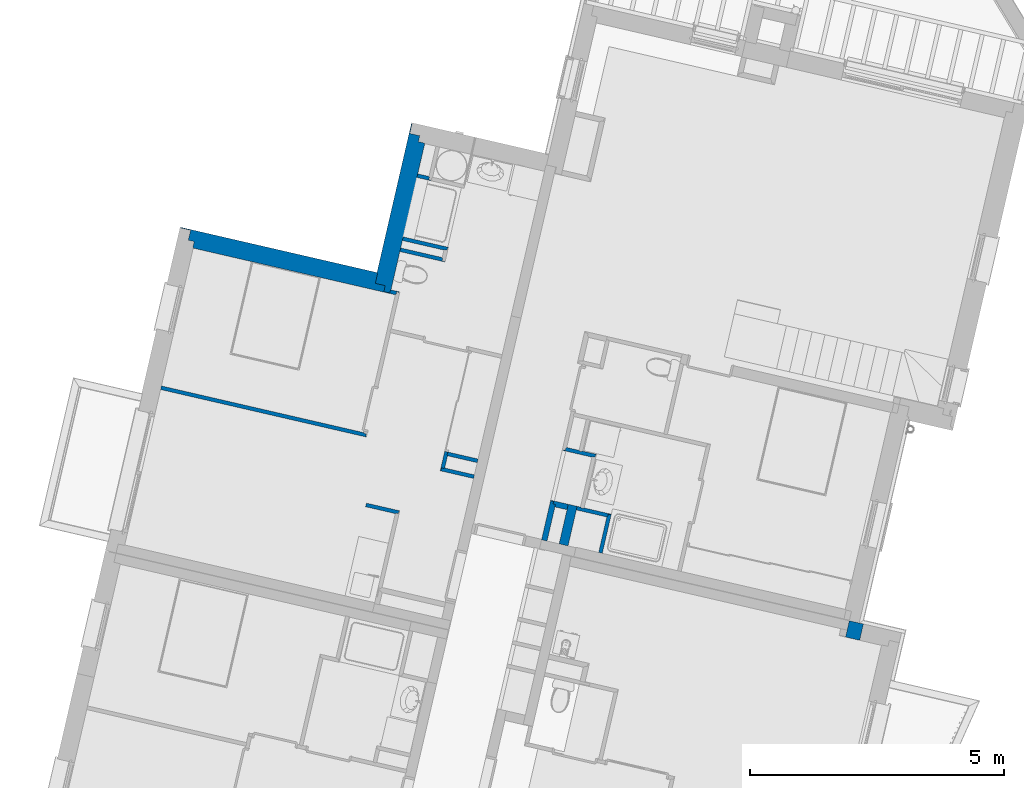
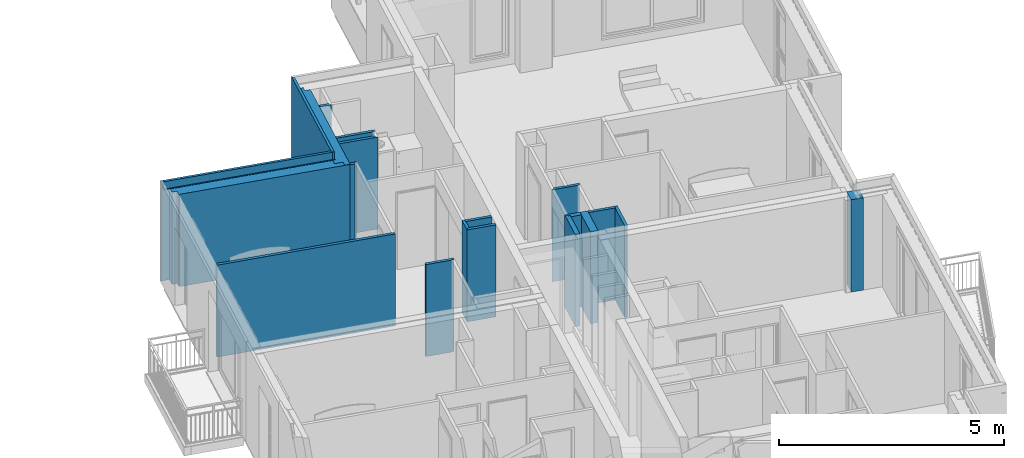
# One storey, part 30 of 62: 18 walls.
"""IFC2X3 building model written with IfcOpenShell, lengths in metres."""

from ifc_helpers import new_model, entity, si_unit, converted_unit, derived_unit, money_unit, direction, frame, origin_with_axes, place, context, subcontext, project, spatial, faceted_brep, material, material_list, type_object, element, save


model = new_model("IFC2X3")

# Units and contexts
model_context = context("Model", 3, precision=1e-05, world=origin_with_axes(), true_north=direction((0.0, 1.0)))
body_context = subcontext(model_context, "Body", "Model", "MODEL_VIEW")
ifc_project = project(units=[si_unit("LENGTHUNIT", "METRE"), si_unit("AREAUNIT", "SQUARE_METRE"), si_unit("VOLUMEUNIT", "CUBIC_METRE"), converted_unit("PLANEANGLEUNIT", "DEGREE", entity("IfcPlaneAngleMeasure", 0.0174532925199), si_unit("PLANEANGLEUNIT", "RADIAN"), dimensions=[0, 0, 0, 0, 0, 0, 0]), si_unit("SOLIDANGLEUNIT", "STERADIAN"), money_unit("EUR"), converted_unit("TIMEUNIT", "Year", entity("IfcTimeMeasure", 31556926.0), si_unit("TIMEUNIT", "SECOND"), dimensions=[0, 0, 1, 0, 0, 0, 0]), si_unit("MASSUNIT", "GRAM", prefix="KILO"), si_unit("THERMODYNAMICTEMPERATUREUNIT", "DEGREE_CELSIUS"), si_unit("LUMINOUSINTENSITYUNIT", "LUMEN"), si_unit("ENERGYUNIT", "JOULE", prefix="MEGA"), derived_unit("THERMALCONDUCTANCEUNIT", [(si_unit("POWERUNIT", "WATT"), 1), (si_unit("LENGTHUNIT", "METRE"), -1), (si_unit("THERMODYNAMICTEMPERATUREUNIT", "KELVIN"), -1)]), derived_unit("SPECIFICHEATCAPACITYUNIT", [(si_unit("ENERGYUNIT", "JOULE"), 1), (si_unit("MASSUNIT", "GRAM", prefix="KILO"), -1), (si_unit("THERMODYNAMICTEMPERATUREUNIT", "KELVIN"), -1)]), derived_unit("MASSDENSITYUNIT", [(si_unit("MASSUNIT", "GRAM", prefix="KILO"), 1), (si_unit("VOLUMEUNIT", "CUBIC_METRE"), -1)])], contexts=[model_context])

# Site, building, storey
site_placement = place(None, origin_with_axes())
site = spatial("IfcSite", under=ifc_project, at=site_placement, Name="Site", CompositionType="ELEMENT")
building_placement = place(site_placement, origin_with_axes())
building = spatial("IfcBuilding", under=site, at=building_placement, Name="Bâtiment", CompositionType="ELEMENT")
storey_placement = place(building_placement, frame((0.0, 0.0, 8.16), z_axis=(0.0, 0.0, 1.0), x_axis=(1.0, 0.0, 0.0)))
storey = spatial("IfcBuildingStorey", under=building, at=storey_placement, Name="R+3", CompositionType="ELEMENT", Elevation=8.16)

# Walls
ifc_material_1 = material(Name="Finition int - Plaque de plâtre")
ifc_material_2 = material(Name="Isolation - Polystyrène extrudé")
ifc_material_3 = material(Name="Bloc ELITHERM")
ifc_material_4 = material(Name="Mortier")
ifc_material_5 = material(Name="Béton cellulaire")
ifc_material_6 = material(Name="Finition ext - Crépis")
ifc_material_list_1 = material_list([ifc_material_1, ifc_material_2, ifc_material_3, ifc_material_4, ifc_material_5, ifc_material_6])
wall_type_1 = type_object("IfcWallType", Name="Mur ALKERN + planelle 21 345 x 2720", PredefinedType="USERDEFINED")
wall_1_placement = place(storey_placement, frame((-10.8873022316, 12.4248199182, 0.0), z_axis=(0.0, 0.0, 1.0), x_axis=(-0.22487619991, -0.974387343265, 0.0)))
element("IfcWall", 1, at=wall_1_placement, inside=storey, type_object=wall_type_1, material=ifc_material_list_1, Name="Mue bloc ALKERN isolé", ObjectType="SOLIDWALL", context=body_context, shape_type="Brep", body=[
    faceted_brep([(3.3749999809, 0.335000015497, 2.51000000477), (0.34499998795, 0.335000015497, 2.51), (0.34499998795, 0.335000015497, 0.0), (3.3749999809, 0.335000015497, 0.0), (2.23900000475, 0.335, 2.2), (1.02900000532, 0.335, 2.2), (1.02900000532, 0.335, 2.5), (2.23900000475, 0.335, 2.5), (3.3749999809, 0.34499998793, 2.51000000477), (0.344999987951, 0.34499998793, 2.51), (0.344999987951, 0.34499998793, 0.0), (3.3749999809, 0.34499998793, 0.0), (2.23900000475, 0.34499998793, 2.2), (1.02900000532, 0.34499998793, 2.2), (1.02900000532, 0.34499998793, 2.5), (2.23900000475, 0.34499998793, 2.5)], [[[0, 1, 2, 3], [4, 5, 6, 7]], [[8, 9, 1, 0]], [[2, 1, 9, 10]], [[3, 2, 10, 11]], [[0, 3, 11, 8]], [[12, 13, 5, 4]], [[13, 14, 6, 5]], [[14, 15, 7, 6]], [[15, 12, 4, 7]], [[11, 10, 9, 8], [12, 15, 14, 13]]]),
    faceted_brep([(0.33500001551, 0.215000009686, 2.51), (3.36500001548, 0.215000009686, 2.51), (3.36500001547, 0.335000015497, 2.51), (0.335000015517, 0.335000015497, 2.51), (0.33500001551, 0.215000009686, 0.0), (3.36500001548, 0.215000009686, 0.0), (3.36500001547, 0.335000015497, 0.0), (0.335000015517, 0.335000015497, 0.0)], [[[0, 1, 2, 3]], [[4, 5, 1, 0]], [[5, 6, 2, 1]], [[3, 2, 6, 7]], [[4, 0, 3, 7]], [[7, 6, 5, 4]]]),
    faceted_brep([(3.24500000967, 0.0829999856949, 2.51), (3.24500000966, 0.214999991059, 2.51), (0.214999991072, 0.214999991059, 2.50999999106), (0.214999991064, 0.0829999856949, 2.50999999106), (3.24500000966, 0.214999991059, 0.0), (3.24500000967, 0.015, 2.51), (3.24500000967, 0.015, 0.0), (0.214999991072, 0.214999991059, 0.0), (0.21499999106, 0.015, 0.0), (0.21499999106, 0.015, 2.50999999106)], [[[0, 1, 2, 3]], [[4, 1, 0, 5, 6]], [[1, 4, 7, 2]], [[3, 2, 7, 8, 9]], [[5, 0, 3, 9]], [[6, 5, 9, 8]], [[4, 6, 8, 7]]]),
    faceted_brep([(0.0830000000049, 0.083, 2.51), (0.0830000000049, 0.083, 2.52), (3.11299999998, 0.083, 2.51999998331), (3.11299999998, 0.083, 2.51000000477), (0.0830000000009, 0.015, 2.52), (0.0830000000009, 0.015, 2.51), (3.11299999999, 0.015, 2.51999998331), (3.11299999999, 0.015, 2.51000000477)], [[[0, 1, 2, 3]], [[4, 1, 0, 5]], [[1, 4, 6, 2]], [[7, 3, 2, 6]], [[5, 0, 3, 7]], [[4, 5, 7, 6]]]),
    faceted_brep([(3.09300000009, 0.015, 2.72), (3.09300000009, 0.0629999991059, 2.72), (0.0629999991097, 0.0629999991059, 2.72), (0.0629999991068, 0.015, 2.72), (3.09300000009, 0.0629999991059, 2.51999999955), (3.09300000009, 0.015, 2.51999999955), (0.0629999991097, 0.0629999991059, 2.51999999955), (0.0629999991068, 0.015, 2.51999999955)], [[[0, 1, 2, 3]], [[4, 1, 0, 5]], [[1, 4, 6, 2]], [[3, 2, 6, 7]], [[5, 0, 3, 7]], [[4, 5, 7, 6]]]),
    faceted_brep([(0.0149999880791, 0.0, 2.72), (3.04499999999, 0.0, 2.72), (3.04499999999, 0.0149999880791, 2.72), (0.0149999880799, 0.0149999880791, 2.72), (3.04499999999, 0.0, 0.0), (0.0149999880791, 0.0, 0.0), (3.04499999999, 0.0149999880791, 0.0), (0.0149999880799, 0.0149999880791, 0.0)], [[[0, 1, 2, 3]], [[4, 1, 0, 5]], [[6, 2, 1, 4]], [[3, 2, 6, 7]], [[5, 0, 3, 7]], [[7, 6, 4, 5]]]),
])
wall_2_placement = place(storey_placement, frame((-11.5686771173, 9.47242626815, 0.0), z_axis=(0.0, 0.0, 1.0), x_axis=(-0.974387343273, 0.224876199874, 0.0)))
element("IfcWall", 2, at=wall_2_placement, inside=storey, type_object=wall_type_1, material=ifc_material_list_1, Name="Mue bloc ALKERN isolé", ObjectType="SOLIDWALL", context=body_context, shape_type="Brep", body=[
    faceted_brep([(3.63500001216, 0.34499998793, 2.51), (-0.335000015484, 0.34499998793, 2.51), (-0.335000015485, 0.335000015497, 2.51), (3.63500001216, 0.335000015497, 2.51), (3.63500001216, 0.34499998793, 0.0), (-0.335000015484, 0.34499998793, 0.0), (-0.335000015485, 0.335000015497, 0.0), (3.63500001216, 0.335000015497, 0.0)], [[[0, 1, 2, 3]], [[4, 5, 1, 0]], [[5, 6, 2, 1]], [[3, 2, 6, 7]], [[4, 0, 3, 7]], [[7, 6, 5, 4]]]),
    faceted_brep([(3.6449999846, 0.335000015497, 2.51), (-0.215000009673, 0.335000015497, 2.51), (-0.215000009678, 0.215000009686, 2.51), (3.64499998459, 0.215000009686, 2.51), (3.6449999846, 0.335000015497, 0.0), (-0.215000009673, 0.335000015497, 0.0), (-0.215000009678, 0.215000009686, 0.0), (3.64499998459, 0.215000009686, 0.0)], [[[0, 1, 2, 3]], [[4, 5, 1, 0]], [[5, 6, 2, 1]], [[3, 2, 6, 7]], [[4, 0, 3, 7]], [[7, 6, 5, 4]]]),
    faceted_brep([(-0.0149999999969, 0.0829999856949, 2.50999999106), (-0.0149999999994, 0.015, 2.50999999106), (3.76500000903, 0.015, 2.50999999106), (3.76500000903, 0.0829999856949, 2.50999999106), (-0.0149999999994, 0.015, 0.0), (-0.014999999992, 0.214999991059, 2.50999999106), (-0.014999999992, 0.214999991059, 0.0), (3.76500000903, 0.015, 0.0), (3.76500000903, 0.214999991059, 0.0), (3.76500000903, 0.214999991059, 2.50999999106)], [[[0, 1, 2, 3]], [[4, 1, 0, 5, 6]], [[1, 4, 7, 2]], [[3, 2, 7, 8, 9]], [[5, 0, 3, 9]], [[6, 5, 9, 8]], [[4, 6, 8, 7]]]),
    faceted_brep([(-0.0149999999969, 0.083, 2.52), (-0.0149999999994, 0.015, 2.52), (3.89700000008, 0.015, 2.52), (3.89700000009, 0.083, 2.52), (-0.0149999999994, 0.015, 2.51), (-0.0149999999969, 0.083, 2.51), (3.89700000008, 0.015, 2.51), (3.89700000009, 0.083, 2.51)], [[[0, 1, 2, 3]], [[4, 1, 0, 5]], [[1, 4, 6, 2]], [[3, 2, 6, 7]], [[5, 0, 3, 7]], [[4, 5, 7, 6]]]),
    faceted_brep([(-0.0149999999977, 0.0629999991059, 2.72), (-0.0149999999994, 0.015, 2.72), (3.91700000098, 0.015, 2.72), (3.91700000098, 0.0629999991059, 2.72), (-0.0149999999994, 0.015, 2.51999999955), (-0.0149999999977, 0.0629999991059, 2.51999999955), (3.91700000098, 0.015, 2.51999999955), (3.91700000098, 0.0629999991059, 2.51999999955)], [[[0, 1, 2, 3]], [[4, 1, 0, 5]], [[1, 4, 6, 2]], [[3, 2, 6, 7]], [[5, 0, 3, 7]], [[4, 5, 7, 6]]]),
    faceted_brep([(3.96500001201, 0.0149999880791, 2.72), (0.0, 0.0149999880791, 2.72), (0.0, 0.0, 2.72), (3.96500001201, 0.0, 2.72), (0.0, 0.0149999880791, 0.0), (3.96500001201, 0.0149999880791, 0.0), (0.0, 0.0, 0.0), (3.96500001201, 0.0, 0.0)], [[[0, 1, 2, 3]], [[4, 1, 0, 5]], [[6, 2, 1, 4]], [[3, 2, 6, 7]], [[5, 0, 3, 7]], [[7, 6, 4, 5]]]),
])
ifc_material_7 = material(Name="Isolation - Laine de roche")
ifc_material_list_2 = material_list([ifc_material_1, ifc_material_7, ifc_material_1])
wall_type_2 = type_object("IfcWallType", Name="3 - Cloison 72mm Placostil 74", PredefinedType="USERDEFINED")
wall_3_placement = place(storey_placement, frame((-7.83288505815, 6.02789818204, 0.0), z_axis=(0.0, 0.0, 1.0), x_axis=(0.97438734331, -0.224876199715, 0.0)))
element("IfcWall", 3, at=wall_3_placement, inside=storey, type_object=wall_type_2, material=ifc_material_list_2, Name="Cloison Placostil 72/48", ObjectType="PARTITIONING", context=body_context, shape_type="Brep", body=[
    faceted_brep([(0.601263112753, -0.013, 2.5), (0.601263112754, 0.0, 2.5), (0.310999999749, 0.0, 2.5), (0.310999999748, -0.013, 2.5), (0.601263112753, -0.013, 0.0), (0.601263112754, 0.0, 0.0), (0.310999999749, 0.0, 0.0), (0.310999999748, -0.013, 0.0)], [[[0, 1, 2, 3]], [[1, 0, 4, 5]], [[1, 5, 6, 2]], [[7, 3, 2, 6]], [[4, 0, 3, 7]], [[5, 4, 7, 6]]]),
    faceted_brep([(0.262999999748, -0.013, 2.5), (0.262999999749, 0.0, 2.5), (0.0, 0.0, 2.5), (0.0, -0.013, 2.5), (0.262999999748, -0.013, 0.0), (0.262999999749, 0.0, 0.0), (0.0, 0.0, 0.0), (0.0, -0.013, 0.0)], [[[0, 1, 2, 3]], [[1, 0, 4, 5]], [[1, 5, 6, 2]], [[7, 3, 2, 6]], [[4, 0, 3, 7]], [[5, 4, 7, 6]]]),
    faceted_brep([(0.588263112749, -0.061, 2.5), (0.588263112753, -0.013, 2.5), (-0.013, -0.013, 2.5), (-0.013, -0.061, 2.5), (0.588263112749, -0.061, 0.0), (0.588263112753, -0.013, 0.0), (-0.013, -0.013, 0.0), (-0.013, -0.061, 0.0)], [[[0, 1, 2, 3]], [[1, 0, 4, 5]], [[1, 5, 6, 2]], [[7, 3, 2, 6]], [[4, 0, 3, 7]], [[5, 4, 7, 6]]]),
    faceted_brep([(0.540263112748, -0.074, 2.5), (0.540263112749, -0.061, 2.5), (-0.061, -0.061, 2.5), (-0.061, -0.074, 2.5), (0.540263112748, -0.074, 0.0), (0.540263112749, -0.061, 0.0), (-0.061, -0.061, 0.0), (-0.061, -0.074, 0.0)], [[[0, 1, 2, 3]], [[1, 0, 4, 5]], [[1, 5, 6, 2]], [[7, 3, 2, 6]], [[4, 0, 3, 7]], [[5, 4, 7, 6]]]),
])
wall_4_placement = place(storey_placement, frame((-10.2357676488, 5.95253282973, 0.0), z_axis=(0.0, 0.0, 1.0), x_axis=(-0.224876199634, -0.974387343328, 0.0)))
element("IfcWall", 4, at=wall_4_placement, inside=storey, type_object=wall_type_2, material=ifc_material_list_2, Name="Cloison Placostil 72/48", ObjectType="PARTITIONING", context=body_context, shape_type="Brep", body=[
    faceted_brep([(0.0130000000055, 0.074, 0.0), (0.0130000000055, 0.061, 0.0), (0.0, 0.061, 0.0), (0.0, 0.074, 0.0), (0.0130000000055, 0.074, 2.5), (0.0130000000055, 0.061, 2.5), (0.0, 0.061, 2.5), (0.0, 0.074, 2.5)], [[[0, 1, 2, 3]], [[1, 0, 4, 5]], [[1, 5, 6, 2]], [[7, 3, 2, 6]], [[4, 0, 3, 7]], [[5, 4, 7, 6]]]),
    faceted_brep([(0.320000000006, 0.074, 0.0), (0.320000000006, 0.061, 0.0), (0.0610000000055, 0.061, 0.0), (0.0610000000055, 0.074, 0.0), (0.320000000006, 0.074, 2.5), (0.320000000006, 0.061, 2.5), (0.0610000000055, 0.061, 2.5), (0.0610000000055, 0.074, 2.5)], [[[0, 1, 2, 3]], [[1, 0, 4, 5]], [[1, 5, 6, 2]], [[7, 3, 2, 6]], [[4, 0, 3, 7]], [[5, 4, 7, 6]]]),
    faceted_brep([(0.333000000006, 0.061, 0.0), (0.333000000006, 0.013, 0.0), (0.0, 0.013, 0.0), (0.0, 0.061, 0.0), (0.333000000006, 0.061, 2.5), (0.333000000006, 0.013, 2.5), (0.0, 0.013, 2.5), (0.0, 0.061, 2.5)], [[[0, 1, 2, 3]], [[1, 0, 4, 5]], [[1, 5, 6, 2]], [[7, 3, 2, 6]], [[4, 0, 3, 7]], [[5, 4, 7, 6]]]),
    faceted_brep([(0.381000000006, 0.013, 0.0), (0.381000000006, 0.0, 0.0), (0.0, 0.0, 0.0), (0.0, 0.013, 0.0), (0.381000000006, 0.013, 2.5), (0.381000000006, 0.0, 2.5), (0.0, 0.0, 2.5), (0.0, 0.013, 2.5)], [[[0, 1, 2, 3]], [[1, 0, 4, 5]], [[1, 5, 6, 2]], [[7, 3, 2, 6]], [[4, 0, 3, 7]], [[5, 4, 7, 6]]]),
])
wall_5_placement = place(storey_placement, frame((-10.3243688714, 5.56862421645, 0.0), z_axis=(0.0, 0.0, 1.0), x_axis=(0.974387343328, -0.224876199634, 0.0)))
element("IfcWall", 5, at=wall_5_placement, inside=storey, type_object=wall_type_2, material=ifc_material_list_2, Name="Cloison Placostil 72/48", ObjectType="PARTITIONING", context=body_context, shape_type="Brep", body=[
    faceted_brep([(0.061, 0.074, 0.0), (0.674999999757, 0.074, 0.0), (0.674999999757, 0.061, 0.0), (0.061, 0.061, 0.0), (0.061, 0.074, 2.5), (0.674999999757, 0.074, 2.5), (0.674999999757, 0.061, 2.5), (0.061, 0.061, 2.5)], [[[0, 1, 2, 3]], [[4, 5, 1, 0]], [[2, 1, 5, 6]], [[3, 2, 6, 7]], [[4, 0, 3, 7]], [[7, 6, 5, 4]]]),
    faceted_brep([(0.013, 0.061, 0.0), (0.674999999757, 0.061, 0.0), (0.674999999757, 0.013, 0.0), (0.013, 0.013, 0.0), (0.013, 0.061, 2.5), (0.674999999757, 0.061, 2.5), (0.674999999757, 0.013, 2.5), (0.013, 0.013, 2.5)], [[[0, 1, 2, 3]], [[4, 5, 1, 0]], [[2, 1, 5, 6]], [[3, 2, 6, 7]], [[4, 0, 3, 7]], [[7, 6, 5, 4]]]),
    faceted_brep([(0.0, 0.013, 0.0), (0.674999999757, 0.013, 0.0), (0.674999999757, 0.0, 0.0), (0.0, 0.0, 0.0), (0.0, 0.013, 2.5), (0.674999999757, 0.013, 2.5), (0.674999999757, 0.0, 2.5), (0.0, 0.0, 2.5)], [[[0, 1, 2, 3]], [[4, 5, 1, 0]], [[2, 1, 5, 6]], [[3, 2, 6, 7]], [[4, 0, 3, 7]], [[7, 6, 5, 4]]]),
])
wall_6_placement = place(storey_placement, frame((-11.778601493, 6.23265409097, 0.0), z_axis=(0.0, 0.0, 1.0), x_axis=(-0.974387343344, 0.224876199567, 0.0)))
element("IfcWall", 6, at=wall_6_placement, inside=storey, type_object=wall_type_2, material=ifc_material_list_2, Name="Cloison Placostil 72/48", ObjectType="PARTITIONING", context=body_context, shape_type="Brep", body=[
    faceted_brep([(0.0, -0.013, 2.5), (4.15900001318, -0.013, 2.5), (4.15900001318, 0.0, 2.5), (0.0, 0.0, 2.5), (0.0, -0.013, 0.0), (4.15900001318, -0.013, 0.0), (4.15900001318, 0.0, 0.0), (0.0, 0.0, 0.0)], [[[0, 1, 2, 3]], [[4, 5, 1, 0]], [[2, 1, 5, 6]], [[3, 2, 6, 7]], [[4, 0, 3, 7]], [[7, 6, 5, 4]]]),
    faceted_brep([(0.0129999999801, -0.061, 2.5), (4.15900001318, -0.061, 2.5), (4.15900001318, -0.013, 2.5), (0.0129999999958, -0.013, 2.5), (0.0129999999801, -0.061, 0.0), (4.15900001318, -0.061, 0.0), (4.15900001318, -0.013, 0.0), (0.0129999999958, -0.013, 0.0)], [[[0, 1, 2, 3]], [[4, 5, 1, 0]], [[2, 1, 5, 6]], [[3, 2, 6, 7]], [[4, 0, 3, 7]], [[7, 6, 5, 4]]]),
    faceted_brep([(0.0609999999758, -0.074, 2.5), (4.15900001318, -0.074, 2.5), (4.15900001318, -0.061, 2.5), (0.0609999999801, -0.061, 2.5), (0.0609999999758, -0.074, 0.0), (4.15900001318, -0.074, 0.0), (4.15900001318, -0.061, 0.0), (0.0609999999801, -0.061, 0.0)], [[[0, 1, 2, 3]], [[4, 5, 1, 0]], [[2, 1, 5, 6]], [[3, 2, 6, 7]], [[4, 0, 3, 7]], [[7, 6, 5, 4]]]),
])
wall_7_placement = place(storey_placement, frame((-11.3198396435, 9.06092911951, 0.0), z_axis=(0.0, 0.0, 1.0), x_axis=(0.974387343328, -0.224876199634, 0.0)))
element("IfcWall", 7, at=wall_7_placement, inside=storey, type_object=wall_type_2, material=ifc_material_list_2, Name="Cloison Placostil 72/48", ObjectType="PARTITIONING", context=body_context, shape_type="Brep", body=[
    faceted_brep([(0.176000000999, 0.074, 0.0), (0.176000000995, 0.061, 0.0), (0.0, 0.061, 0.0), (0.0, 0.074, 0.0), (0.176000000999, 0.074, 2.5), (0.176000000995, 0.061, 2.5), (0.0, 0.061, 2.5), (0.0, 0.074, 2.5)], [[[0, 1, 2, 3]], [[1, 0, 4, 5]], [[1, 5, 6, 2]], [[7, 3, 2, 6]], [[4, 0, 3, 7]], [[5, 4, 7, 6]]]),
    faceted_brep([(0.128000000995, 0.061, 0.0), (0.128000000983, 0.013, 0.0), (0.0, 0.013, 0.0), (0.0, 0.061, 0.0), (0.128000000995, 0.061, 2.5), (0.128000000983, 0.013, 2.5), (0.0, 0.013, 2.5), (0.0, 0.061, 2.5)], [[[0, 1, 2, 3]], [[1, 0, 4, 5]], [[1, 5, 6, 2]], [[7, 3, 2, 6]], [[4, 0, 3, 7]], [[5, 4, 7, 6]]]),
    faceted_brep([(0.115000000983, 0.013, 0.0), (0.11500000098, 0.0, 0.0), (0.0, 0.0, 0.0), (0.0, 0.013, 0.0), (0.115000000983, 0.013, 2.5), (0.11500000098, 0.0, 2.5), (0.0, 0.0, 2.5), (0.0, 0.013, 2.5)], [[[0, 1, 2, 3]], [[1, 0, 4, 5]], [[1, 5, 6, 2]], [[7, 3, 2, 6]], [[4, 0, 3, 7]], [[5, 4, 7, 6]]]),
])
wall_8_placement = place(storey_placement, frame((-10.2524084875, 5.88042816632, 0.0), z_axis=(0.0, 0.0, 1.0), x_axis=(0.974387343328, -0.224876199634, 0.0)))
element("IfcWall", 8, at=wall_8_placement, inside=storey, type_object=wall_type_2, material=ifc_material_list_2, Name="Cloison Placostil 72/48", ObjectType="PARTITIONING", context=body_context, shape_type="Brep", body=[
    faceted_brep([(0.074, 0.074, 0.0), (0.674999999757, 0.074, 0.0), (0.674999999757, 0.061, 0.0), (0.074, 0.061, 0.0), (0.074, 0.074, 2.5), (0.674999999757, 0.074, 2.5), (0.674999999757, 0.061, 2.5), (0.074, 0.061, 2.5)], [[[0, 1, 2, 3]], [[4, 5, 1, 0]], [[2, 1, 5, 6]], [[3, 2, 6, 7]], [[4, 0, 3, 7]], [[7, 6, 5, 4]]]),
    faceted_brep([(0.061, 0.061, 0.0), (0.674999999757, 0.061, 0.0), (0.674999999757, 0.013, 0.0), (0.061, 0.013, 0.0), (0.061, 0.061, 2.5), (0.674999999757, 0.061, 2.5), (0.674999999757, 0.013, 2.5), (0.061, 0.013, 2.5)], [[[0, 1, 2, 3]], [[4, 5, 1, 0]], [[2, 1, 5, 6]], [[3, 2, 6, 7]], [[4, 0, 3, 7]], [[7, 6, 5, 4]]]),
    faceted_brep([(0.074, 0.013, 0.0), (0.674999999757, 0.013, 0.0), (0.674999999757, 0.0, 0.0), (0.074, 0.0, 0.0), (0.074, 0.013, 2.5), (0.674999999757, 0.013, 2.5), (0.674999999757, 0.0, 2.5), (0.074, 0.0, 2.5)], [[[0, 1, 2, 3]], [[4, 5, 1, 0]], [[2, 1, 5, 6]], [[3, 2, 6, 7]], [[4, 0, 3, 7]], [[7, 6, 5, 4]]]),
])
wall_9_placement = place(storey_placement, frame((-11.2096996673, 4.72524852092, 0.0), z_axis=(0.0, 0.0, 1.0), x_axis=(-0.974387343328, 0.224876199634, 0.0)))
element("IfcWall", 9, at=wall_9_placement, inside=storey, type_object=wall_type_2, material=ifc_material_list_2, Name="Cloison Placostil 72/48", ObjectType="PARTITIONING", context=body_context, shape_type="Brep", body=[
    faceted_brep([(-0.013, -0.013, 2.5), (0.600000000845, -0.013, 2.5), (0.600000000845, 0.0, 2.5), (-0.013, 0.0, 2.5), (-0.013, -0.013, 0.0), (0.600000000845, -0.013, 0.0), (0.600000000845, 0.0, 0.0), (-0.013, 0.0, 0.0)], [[[0, 1, 2, 3]], [[4, 5, 1, 0]], [[2, 1, 5, 6]], [[3, 2, 6, 7]], [[4, 0, 3, 7]], [[7, 6, 5, 4]]]),
    faceted_brep([(-0.061, -0.061, 2.5), (0.600000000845, -0.061, 2.5), (0.600000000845, -0.013, 2.5), (-0.061, -0.013, 2.5), (-0.061, -0.061, 0.0), (0.600000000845, -0.061, 0.0), (0.600000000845, -0.013, 0.0), (-0.061, -0.013, 0.0)], [[[0, 1, 2, 3]], [[4, 5, 1, 0]], [[2, 1, 5, 6]], [[3, 2, 6, 7]], [[4, 0, 3, 7]], [[7, 6, 5, 4]]]),
    faceted_brep([(-0.074, -0.074, 2.5), (0.600000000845, -0.074, 2.5), (0.600000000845, -0.061, 2.5), (-0.074, -0.061, 2.5), (-0.074, -0.074, 0.0), (0.600000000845, -0.074, 0.0), (0.600000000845, -0.061, 0.0), (-0.074, -0.061, 0.0)], [[[0, 1, 2, 3]], [[4, 5, 1, 0]], [[2, 1, 5, 6]], [[3, 2, 6, 7]], [[4, 0, 3, 7]], [[7, 6, 5, 4]]]),
])
wall_type_3 = type_object("IfcWallType", Name="3 - Cloison Gaine Technique 72mm 74", PredefinedType="USERDEFINED")
wall_10_placement = place(storey_placement, frame((-10.4911943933, 11.2773550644, 0.0), z_axis=(0.0, 0.0, 1.0), x_axis=(-0.974387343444, 0.224876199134, 0.0)))
element("IfcWall", 10, at=wall_10_placement, inside=storey, type_object=wall_type_3, material=ifc_material_list_2, Name="Cloison Placostil 72/48", ObjectType="PARTITIONING", context=body_context, shape_type="Brep", body=[
    faceted_brep([(0.013, 0.0, 2.5), (0.0129999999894, -0.013, 2.5), (0.299000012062, -0.013, 2.5), (0.299000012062, 0.0, 2.5), (0.013, 0.0, 0.0), (0.0129999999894, -0.013, 0.0), (0.299000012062, -0.013, 0.0), (0.299000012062, 0.0, 0.0)], [[[0, 1, 2, 3]], [[4, 5, 1, 0]], [[1, 5, 6, 2]], [[7, 3, 2, 6]], [[4, 0, 3, 7]], [[5, 4, 7, 6]]]),
    faceted_brep([(0.0609999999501, -0.061, 2.5), (0.299000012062, -0.061, 2.5), (0.299000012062, -0.013, 2.5), (0.0609999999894, -0.013, 2.5), (0.0609999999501, -0.061, 0.0), (0.299000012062, -0.061, 0.0), (0.299000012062, -0.013, 0.0), (0.0609999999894, -0.013, 0.0)], [[[0, 1, 2, 3]], [[4, 5, 1, 0]], [[2, 1, 5, 6]], [[3, 2, 6, 7]], [[4, 0, 3, 7]], [[7, 6, 5, 4]]]),
    faceted_brep([(0.0739999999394, -0.074, 2.5), (0.299000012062, -0.074, 2.5), (0.299000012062, -0.061, 2.5), (0.0739999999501, -0.061, 2.5), (0.0739999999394, -0.074, 0.0), (0.299000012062, -0.074, 0.0), (0.299000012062, -0.061, 0.0), (0.0739999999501, -0.061, 0.0)], [[[0, 1, 2, 3]], [[4, 5, 1, 0]], [[2, 1, 5, 6]], [[3, 2, 6, 7]], [[4, 0, 3, 7]], [[7, 6, 5, 4]]]),
])
wall_11_placement = place(storey_placement, frame((-7.62717439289, 4.86922451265, 0.0), z_axis=(0.0, 0.0, 1.0), x_axis=(0.97438734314, -0.224876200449, 0.0)))
element("IfcWall", 11, at=wall_11_placement, inside=storey, type_object=wall_type_3, material=ifc_material_list_2, Name="Cloison Placostil 72/48", ObjectType="PARTITIONING", context=body_context, shape_type="Brep", body=[
    faceted_brep([(0.677263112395, -0.013, 2.5), (0.677263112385, 0.0, 2.5), (0.127263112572, 0.0, 2.5), (0.127263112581, -0.013, 2.5), (0.677263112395, -0.013, 0.0), (0.677263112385, 0.0, 0.0), (0.127263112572, 0.0, 0.0), (0.127263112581, -0.013, 0.0)], [[[0, 1, 2, 3]], [[1, 0, 4, 5]], [[1, 5, 6, 2]], [[7, 3, 2, 6]], [[4, 0, 3, 7]], [[5, 4, 7, 6]]]),
    faceted_brep([(0.0792631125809, -0.013, 2.5), (0.0792631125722, 0.0, 2.5), (0.0, 0.0, 2.5), (0.0, -0.013, 2.5), (0.0792631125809, -0.013, 0.0), (0.0792631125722, 0.0, 0.0), (0.0, 0.0, 0.0), (0.0, -0.013, 0.0)], [[[0, 1, 2, 3]], [[1, 0, 4, 5]], [[1, 5, 6, 2]], [[7, 3, 2, 6]], [[4, 0, 3, 7]], [[5, 4, 7, 6]]]),
    faceted_brep([(0.629263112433, -0.061, 2.5), (0.629263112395, -0.013, 2.5), (0.0, -0.013, 2.5), (0.0, -0.061, 2.5), (0.629263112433, -0.061, 0.0), (0.629263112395, -0.013, 0.0), (0.0, -0.013, 0.0), (0.0, -0.061, 0.0)], [[[0, 1, 2, 3]], [[1, 0, 4, 5]], [[1, 5, 6, 2]], [[7, 3, 2, 6]], [[4, 0, 3, 7]], [[5, 4, 7, 6]]]),
    faceted_brep([(0.616263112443, -0.074, 2.5), (0.616263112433, -0.061, 2.5), (0.0, -0.061, 2.5), (0.0, -0.074, 2.5), (0.616263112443, -0.074, 0.0), (0.616263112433, -0.061, 0.0), (0.0, -0.061, 0.0), (0.0, -0.074, 0.0)], [[[0, 1, 2, 3]], [[1, 0, 4, 5]], [[1, 5, 6, 2]], [[7, 3, 2, 6]], [[4, 0, 3, 7]], [[5, 4, 7, 6]]]),
])
wall_12_placement = place(storey_placement, frame((-10.2296946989, 9.6800406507, 0.0), z_axis=(0.0, 0.0, 1.0), x_axis=(-0.974387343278, 0.224876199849, 0.0)))
element("IfcWall", 12, at=wall_12_placement, inside=storey, type_object=wall_type_3, material=ifc_material_list_2, Name="Cloison Placostil 72/48", ObjectType="PARTITIONING", context=body_context, shape_type="Brep", body=[
    faceted_brep([(0.0129999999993, -0.013, 2.5), (0.913000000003, -0.013, 2.5), (0.913000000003, 0.0, 2.5), (0.013, 0.0, 2.5), (0.0129999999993, -0.013, 0.0), (0.913000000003, -0.013, 0.0), (0.913000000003, 0.0, 0.0), (0.013, 0.0, 0.0)], [[[0, 1, 2, 3]], [[4, 5, 1, 0]], [[2, 1, 5, 6]], [[3, 2, 6, 7]], [[4, 0, 3, 7]], [[7, 6, 5, 4]]]),
    faceted_brep([(0.0609999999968, -0.061, 2.5), (0.913000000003, -0.061, 2.5), (0.913000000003, -0.013, 2.5), (0.0609999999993, -0.013, 2.5), (0.0609999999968, -0.061, 0.0), (0.913000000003, -0.061, 0.0), (0.913000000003, -0.013, 0.0), (0.0609999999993, -0.013, 0.0)], [[[0, 1, 2, 3]], [[4, 5, 1, 0]], [[2, 1, 5, 6]], [[3, 2, 6, 7]], [[4, 0, 3, 7]], [[7, 6, 5, 4]]]),
    faceted_brep([(0.0739999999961, -0.074, 2.5), (0.913000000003, -0.074, 2.5), (0.913000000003, -0.061, 2.5), (0.0739999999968, -0.061, 2.5), (0.0739999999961, -0.074, 0.0), (0.913000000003, -0.074, 0.0), (0.913000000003, -0.061, 0.0), (0.0739999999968, -0.061, 0.0)], [[[0, 1, 2, 3]], [[4, 5, 1, 0]], [[2, 1, 5, 6]], [[3, 2, 6, 7]], [[4, 0, 3, 7]], [[7, 6, 5, 4]]]),
])
wall_13_placement = place(storey_placement, frame((-6.95459075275, 4.71400076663, 0.0), z_axis=(0.0, 0.0, 1.0), x_axis=(-0.224876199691, -0.974387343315, 0.0)))
element("IfcWall", 13, at=wall_13_placement, inside=storey, type_object=wall_type_3, material=ifc_material_list_2, Name="Cloison Placostil 72/48", ObjectType="PARTITIONING", context=body_context, shape_type="Brep", body=[
    faceted_brep([(0.0, -0.013, 2.5), (0.790475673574, -0.013, 2.5), (0.790475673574, 0.0, 2.5), (0.0, 0.0, 2.5), (0.0, -0.013, 0.0), (0.790475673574, -0.013, 0.0), (0.790475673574, 0.0, 0.0), (0.0, 0.0, 0.0)], [[[0, 1, 2, 3]], [[4, 5, 1, 0]], [[2, 1, 5, 6]], [[3, 2, 6, 7]], [[4, 0, 3, 7]], [[7, 6, 5, 4]]]),
    faceted_brep([(0.0129999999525, -0.061, 2.5), (0.790475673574, -0.061, 2.5), (0.790475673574, -0.013, 2.5), (0.0129999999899, -0.013, 2.5), (0.0129999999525, -0.061, 0.0), (0.790475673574, -0.061, 0.0), (0.790475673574, -0.013, 0.0), (0.0129999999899, -0.013, 0.0)], [[[0, 1, 2, 3]], [[4, 5, 1, 0]], [[2, 1, 5, 6]], [[3, 2, 6, 7]], [[4, 0, 3, 7]], [[7, 6, 5, 4]]]),
    faceted_brep([(0.0609999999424, -0.074, 2.5), (0.790475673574, -0.074, 2.5), (0.790475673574, -0.061, 2.5), (0.0609999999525, -0.061, 2.5), (0.0609999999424, -0.074, 0.0), (0.790475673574, -0.074, 0.0), (0.790475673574, -0.061, 0.0), (0.0609999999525, -0.061, 0.0)], [[[0, 1, 2, 3]], [[4, 5, 1, 0]], [[2, 1, 5, 6]], [[3, 2, 6, 7]], [[4, 0, 3, 7]], [[7, 6, 5, 4]]]),
])
wall_14_placement = place(storey_placement, frame((-11.0523876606, 10.1753282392, 0.0), z_axis=(0.0, 0.0, 1.0), x_axis=(0.97438734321, -0.224876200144, 0.0)))
element("IfcWall", 14, at=wall_14_placement, inside=storey, type_object=wall_type_3, material=ifc_material_list_2, Name="Cloison Placostil 72/48", ObjectType="PARTITIONING", context=body_context, shape_type="Brep", body=[
    faceted_brep([(0.0, 0.0, 2.2), (0.225000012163, 0.0, 2.2), (0.225000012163, 0.0, 2.5), (0.913, 0.0, 2.5), (0.913, 0.0, 0.0), (0.0, 0.0, 0.0), (0.0, -0.00999999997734, 2.2), (0.225000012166, -0.00999999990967, 2.2), (0.225000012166, -0.00999999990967, 2.5), (0.0, -0.00999999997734, 2.5), (0.0, -0.013, 2.5), (0.913000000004, -0.013, 2.5), (0.913000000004, -0.013, 0.0), (0.0, -0.013, 0.0)], [[[0, 1, 2, 3, 4, 5]], [[1, 0, 6, 7]], [[8, 2, 1, 7]], [[8, 9, 10, 11, 3, 2]], [[3, 11, 12, 4]], [[4, 12, 13, 5]], [[6, 0, 5, 13, 10, 9]], [[9, 8, 7, 6]], [[12, 11, 10, 13]]]),
    faceted_brep([(0.900000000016, -0.061, 2.5), (0.900000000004, -0.013, 2.5), (0.0, -0.013, 2.5), (0.0, -0.061, 2.5), (0.900000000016, -0.061, 0.0), (0.900000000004, -0.013, 0.0), (0.0, -0.013, 0.0), (0.0, -0.061, 0.0)], [[[0, 1, 2, 3]], [[1, 0, 4, 5]], [[1, 5, 6, 2]], [[7, 3, 2, 6]], [[4, 0, 3, 7]], [[5, 4, 7, 6]]]),
    faceted_brep([(0.852000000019, -0.074, 2.5), (0.852000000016, -0.061, 2.5), (0.0, -0.061, 2.5), (0.0, -0.074, 2.5), (0.852000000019, -0.074, 0.0), (0.852000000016, -0.061, 0.0), (0.0, -0.061, 0.0), (0.0, -0.074, 0.0)], [[[0, 1, 2, 3]], [[1, 0, 4, 5]], [[1, 5, 6, 2]], [[7, 3, 2, 6]], [[4, 0, 3, 7]], [[5, 4, 7, 6]]]),
])
ifc_material_8 = material(Name="Béton")
wall_type_4 = type_object("IfcWallType", Name="Béton 180", PredefinedType="USERDEFINED")
wall_15_placement = place(storey_placement, frame((-7.65213565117, 4.76106751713, 0.0), z_axis=(0.0, 0.0, 1.0), x_axis=(-0.224876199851, -0.974387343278, 0.0)))
element("IfcWall", 15, at=wall_15_placement, inside=storey, type_object=wall_type_4, material=ifc_material_8, Name="M_Ext-009", ObjectType="SOLIDWALL", context=body_context, shape_type="Brep", body=[
    faceted_brep([(-0.111, -0.18, 2.5), (0.689475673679, -0.18, 2.5), (0.689475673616, 0.0, 2.5), (-0.111, 0.0, 2.5), (-0.111, -0.18, 0.0), (0.689475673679, -0.18, 0.0), (0.689475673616, 0.0, 0.0), (-0.111, 0.0, 0.0)], [[[0, 1, 2, 3]], [[4, 5, 1, 0]], [[6, 2, 1, 5]], [[3, 2, 6, 7]], [[7, 4, 0, 3]], [[7, 6, 5, 4]]]),
])
ifc_material_9 = material(Name="Finition int - Plaque type PROMAT 5cm")
ifc_material_list_3 = material_list([ifc_material_9, ifc_material_7, ifc_material_1])
wall_type_5 = type_object("IfcWallType", Name="3 - Cloison CF 2H PROMAT 111", PredefinedType="USERDEFINED")
wall_16_placement = place(storey_placement, frame((-8.06527588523, 4.85641502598, 0.0), z_axis=(0.0, 0.0, 1.0), x_axis=(-0.224876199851, -0.974387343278, 0.0)))
element("IfcWall", 16, at=wall_16_placement, inside=storey, type_object=wall_type_5, material=ifc_material_list_3, Name="Cloison CF Promat 5cm", ObjectType="PARTITIONING", context=body_context, shape_type="Brep", body=[
    faceted_brep([(0.689475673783, -0.05, 2.5), (0.689475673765, 0.0, 2.5), (-0.05, 0.0, 2.5), (-0.05, -0.05, 2.5), (0.689475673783, -0.05, 0.0), (0.689475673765, 0.0, 0.0), (-0.05, 0.0, 0.0), (-0.05, -0.05, 0.0)], [[[0, 1, 2, 3]], [[1, 0, 4, 5]], [[1, 5, 6, 2]], [[7, 3, 2, 6]], [[4, 0, 3, 7]], [[5, 4, 7, 6]]]),
    faceted_brep([(0.6894756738, -0.098, 2.5), (0.689475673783, -0.05, 2.5), (-0.098, -0.05, 2.5), (-0.098, -0.098, 2.5), (0.6894756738, -0.098, 0.0), (0.689475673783, -0.05, 0.0), (-0.098, -0.05, 0.0), (-0.098, -0.098, 0.0)], [[[0, 1, 2, 3]], [[1, 0, 4, 5]], [[1, 5, 6, 2]], [[7, 3, 2, 6]], [[4, 0, 3, 7]], [[5, 4, 7, 6]]]),
    faceted_brep([(0.689475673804, -0.111, 2.5), (0.6894756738, -0.098, 2.5), (-0.111, -0.098, 2.5), (-0.111, -0.111, 2.5), (0.689475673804, -0.111, 0.0), (0.6894756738, -0.098, 0.0), (-0.111, -0.098, 0.0), (-0.111, -0.111, 0.0)], [[[0, 1, 2, 3]], [[1, 0, 4, 5]], [[1, 5, 6, 2]], [[7, 3, 2, 6]], [[4, 0, 3, 7]], [[5, 4, 7, 6]]]),
])
wall_17_placement = place(storey_placement, frame((-7.65213565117, 4.76106751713, 0.0), z_axis=(0.0, 0.0, 1.0), x_axis=(-0.974387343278, 0.224876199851, 0.0)))
element("IfcWall", 17, at=wall_17_placement, inside=storey, type_object=wall_type_5, material=ifc_material_list_3, Name="Cloison CF Promat 5cm", ObjectType="PARTITIONING", context=body_context, shape_type="Brep", body=[
    faceted_brep([(0.424000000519, -0.05, 2.5), (0.424000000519, 0.0, 2.5), (0.18, 0.0, 2.5), (0.18, -0.05, 2.5), (0.424000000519, -0.05, 0.0), (0.424000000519, 0.0, 0.0), (0.18, 0.0, 0.0), (0.18, -0.05, 0.0)], [[[0, 1, 2, 3]], [[1, 0, 4, 5]], [[1, 5, 6, 2]], [[7, 3, 2, 6]], [[4, 0, 3, 7]], [[5, 4, 7, 6]]]),
    faceted_brep([(0.474000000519, -0.098, 2.5), (0.474000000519, -0.05, 2.5), (0.18, -0.05, 2.5), (0.18, -0.098, 2.5), (0.474000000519, -0.098, 0.0), (0.474000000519, -0.05, 0.0), (0.18, -0.05, 0.0), (0.18, -0.098, 0.0)], [[[0, 1, 2, 3]], [[1, 0, 4, 5]], [[1, 5, 6, 2]], [[7, 3, 2, 6]], [[4, 0, 3, 7]], [[5, 4, 7, 6]]]),
    faceted_brep([(0.522000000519, -0.111, 2.5), (0.522000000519, -0.098, 2.5), (0.18, -0.098, 2.5), (0.18, -0.111, 2.5), (0.522000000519, -0.111, 0.0), (0.522000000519, -0.098, 0.0), (0.18, -0.098, 0.0), (0.18, -0.111, 0.0)], [[[0, 1, 2, 3]], [[1, 0, 4, 5]], [[1, 5, 6, 2]], [[7, 3, 2, 6]], [[4, 0, 3, 7]], [[5, 4, 7, 6]]]),
])
ifc_material_10 = material(Name="Divers - Vide")
ifc_material_list_4 = material_list([ifc_material_8, ifc_material_10, ifc_material_2, ifc_material_1])
wall_type_6 = type_object("IfcWallType", Name="1 - Mur Extérieur BETON 18 +Isolant 120 330", PredefinedType="USERDEFINED")
wall_18_placement = place(storey_placement, frame((-2.26745728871, 2.61575877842, 0.0), z_axis=(0.0, 0.0, 1.0), x_axis=(0.974387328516, -0.224876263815, 0.0)))
element("IfcWall", 18, at=wall_18_placement, inside=storey, type_object=wall_type_6, material=ifc_material_list_4, Name="M_Ext-009", ObjectType="SOLIDWALL", context=body_context, shape_type="Brep", body=[
    faceted_brep([(0.0, -0.18, 2.51), (0.284999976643, -0.18, 2.51), (0.284999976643, 0.0, 2.51), (0.0, 0.0, 2.51), (0.0, -0.18, 0.0), (0.284999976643, -0.18, 0.0), (0.284999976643, 0.0, 0.0), (0.0, 0.0, 0.0)], [[[0, 1, 2, 3]], [[4, 5, 1, 0]], [[2, 1, 5, 6]], [[3, 2, 6, 7]], [[4, 0, 3, 7]], [[7, 6, 5, 4]]]),
    faceted_brep([(0.0, -0.2, 2.51), (0.284999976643, -0.2, 2.51), (0.284999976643, -0.18, 2.51), (0.0, -0.18, 2.51), (0.0, -0.2, 0.0), (0.284999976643, -0.2, 0.0), (0.284999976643, -0.18, 0.0), (0.0, -0.18, 0.0)], [[[0, 1, 2, 3]], [[4, 5, 1, 0]], [[2, 1, 5, 6]], [[3, 2, 6, 7]], [[4, 0, 3, 7]], [[7, 6, 5, 4]]]),
    faceted_brep([(0.0, -0.32, 2.51), (0.284999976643, -0.32, 2.51), (0.284999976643, -0.2, 2.51), (0.0, -0.2, 2.51), (0.0, -0.32, 0.0), (0.284999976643, -0.32, 0.0), (0.284999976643, -0.2, 0.0), (0.0, -0.2, 0.0)], [[[0, 1, 2, 3]], [[4, 5, 1, 0]], [[2, 1, 5, 6]], [[3, 2, 6, 7]], [[4, 0, 3, 7]], [[7, 6, 5, 4]]]),
    faceted_brep([(0.0, -0.33, 2.51), (0.284999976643, -0.33, 2.51), (0.284999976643, -0.32, 2.51), (0.0, -0.32, 2.51), (0.0, -0.33, 0.0), (0.284999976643, -0.33, 0.0), (0.284999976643, -0.32, 0.0), (0.0, -0.32, 0.0)], [[[0, 1, 2, 3]], [[4, 5, 1, 0]], [[2, 1, 5, 6]], [[3, 2, 6, 7]], [[4, 0, 3, 7]], [[7, 6, 5, 4]]]),
])

save(model, "model.ifc")
